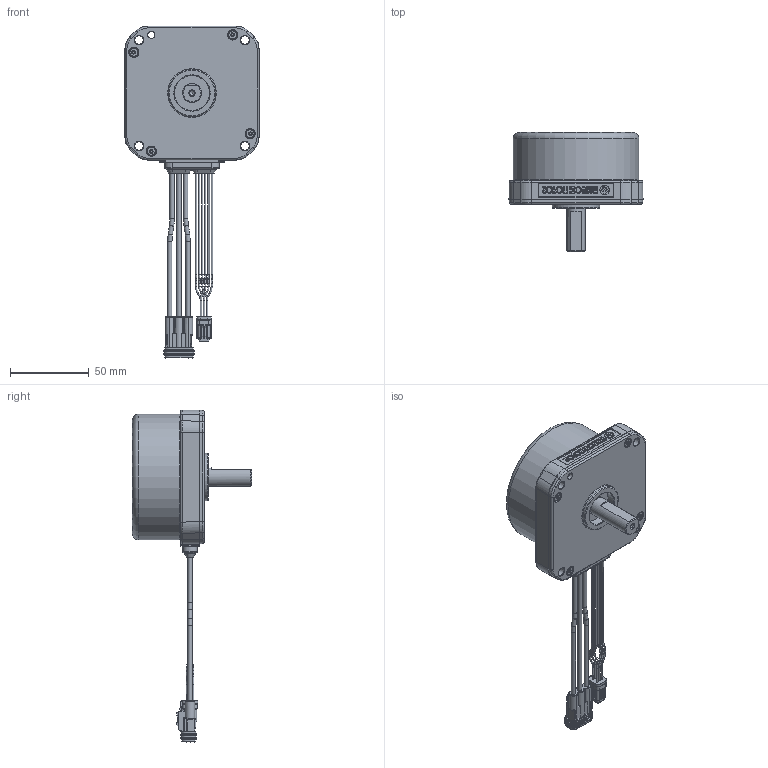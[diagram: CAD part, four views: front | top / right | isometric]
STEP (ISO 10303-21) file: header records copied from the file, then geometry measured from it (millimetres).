
FILE_DESCRIPTION(/* description */ (''),/* implementation_level */ '2;1');
FILE_NAME(/* name */ 'IS-94BZC.stp',/* time_stamp */ '2018-04-23T17:08:55+09:00',/* author */ (''),/* organization */ (''),/* preprocessor_version */ 'ST-DEVELOPER v15',/* originating_system */ 'SIEMENS PLM Software NX 8.5',/* authorisation */ '');
FILE_SCHEMA (('AUTOMOTIVE_DESIGN { 1 0 10303 214 3 1 1 1 }'));
Length unit declared in the file: millimetre
Products named in the file (1): M-124-2_block_stp
Bounding box: 85 x 75.5 x 210.5 mm (x, y, z)
Volume: 265425.1 mm3; surface area: 37624.2 mm2
Topology: 1 solids, 10 shells, 1504 faces, 3642 edges, 2173 vertices
Faces by surface type: cylinder 627, plane 496, torus 175, bspline 108, sphere 56, cone 36, revolution 6
Full cylindrical faces by diameter (mm): 1 x30, 1.02 x6, 1.7 x4, 1.9 x4, 2.8 x7, 3 x4, 3.01 x2, 3.025 x4, 3.04 x1, 4.41 x2, 4.5 x5, 5 x2, 5.25 x4, 5.3 x4, 6.5 x4, 11.986 x1, 12.004 x1, 22 x1, 29.983 x1, 79.8 x1
Entity records: 55010 total; most frequent: CARTESIAN_POINT 10775, DIRECTION 7231, ORIENTED_EDGE 6770, EDGE_CURVE 3385, AXIS2_PLACEMENT_3D 2765, VERTEX_POINT 2120, EDGE_LOOP 1766, LINE 1695
